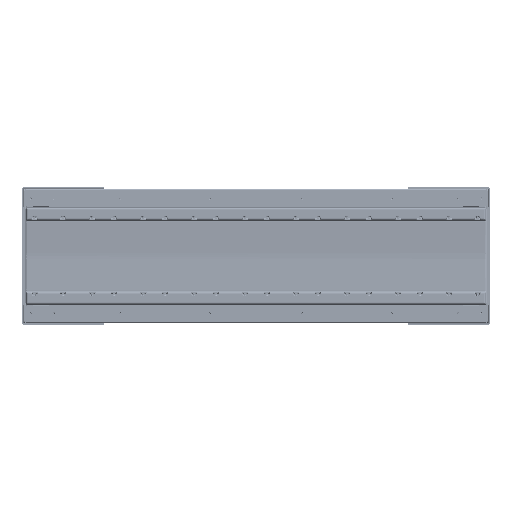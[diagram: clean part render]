
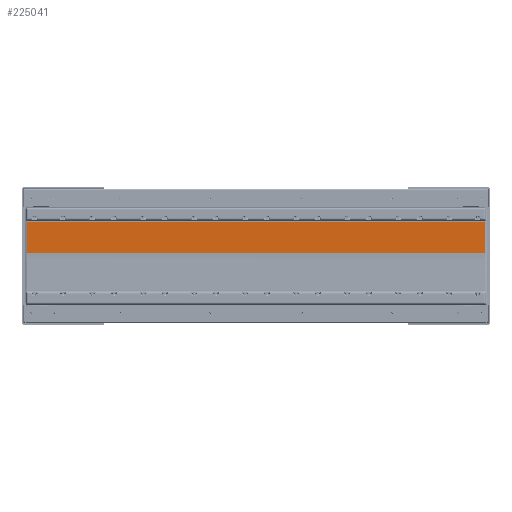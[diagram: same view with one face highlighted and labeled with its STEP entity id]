
A CAD part, front view. The second image highlights one B-rep face of the part: STEP entity #225041.
In plain terms, the highlighted planar face has unit normal (0, -0.999, -0.042).
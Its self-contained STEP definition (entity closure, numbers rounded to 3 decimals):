
#8235 = ORIENTED_EDGE ( 'NONE', *, *, #245679, .T. ) ;
#14882 = DIRECTION ( 'NONE',  ( -0.001, -0.042, 0.999 ) ) ;
#22287 = LINE ( 'NONE', #355258, #259418 ) ;
#30843 = CARTESIAN_POINT ( 'NONE',  ( 645.515, 1.82, -87.761 ) ) ;
#52838 = VECTOR ( 'NONE', #168229, 1000. ) ;
#57309 = PLANE ( 'NONE',  #290160 ) ;
#57465 = LINE ( 'NONE', #138719, #52838 ) ;
#80488 = VERTEX_POINT ( 'NONE', #83565 ) ;
#80510 = VECTOR ( 'NONE', #197923, 1000. ) ;
#81945 = CARTESIAN_POINT ( 'NONE',  ( 645.515, 1.82, -87.761 ) ) ;
#83565 = CARTESIAN_POINT ( 'NONE',  ( 0.951, 1.82, -87.761 ) ) ;
#94633 = VERTEX_POINT ( 'NONE', #114506 ) ;
#104254 = CARTESIAN_POINT ( 'NONE',  ( 644.049, 1.82, -87.761 ) ) ;
#114506 = CARTESIAN_POINT ( 'NONE',  ( 644.017, 0., -44.857 ) ) ;
#117748 = ORIENTED_EDGE ( 'NONE', *, *, #168079, .T. ) ;
#138719 = CARTESIAN_POINT ( 'NONE',  ( 0.951, 1.82, -87.762 ) ) ;
#141377 = FACE_OUTER_BOUND ( 'NONE', #269044, .T. ) ;
#154031 = VERTEX_POINT ( 'NONE', #104254 ) ;
#168079 = EDGE_CURVE ( 'NONE', #154031, #94633, #286355, .T. ) ;
#168229 = DIRECTION ( 'NONE',  ( -0.001, 0.042, -0.999 ) ) ;
#188753 = ORIENTED_EDGE ( 'NONE', *, *, #356169, .F. ) ;
#197923 = DIRECTION ( 'NONE',  ( -1., 0., 0. ) ) ;
#212624 = CARTESIAN_POINT ( 'NONE',  ( 644.017, 0., -44.858 ) ) ;
#225041 = ADVANCED_FACE ( 'NONE', ( #141377 ), #57309, .T. ) ;
#229807 = LINE ( 'NONE', #30843, #80510 ) ;
#245679 = EDGE_CURVE ( 'NONE', #94633, #253465, #22287, .T. ) ;
#245747 = DIRECTION ( 'NONE',  ( -1., 0., 0. ) ) ;
#253465 = VERTEX_POINT ( 'NONE', #360125 ) ;
#259418 = VECTOR ( 'NONE', #245747, 1000. ) ;
#269044 = EDGE_LOOP ( 'NONE', ( #8235, #325676, #188753, #117748 ) ) ;
#276570 = EDGE_CURVE ( 'NONE', #253465, #80488, #57465, .T. ) ;
#286355 = LINE ( 'NONE', #212624, #347823 ) ;
#290160 = AXIS2_PLACEMENT_3D ( 'NONE', #81945, #311272, #363109 ) ;
#311272 = DIRECTION ( 'NONE',  ( 0., -0.999, -0.042 ) ) ;
#325676 = ORIENTED_EDGE ( 'NONE', *, *, #276570, .T. ) ;
#347823 = VECTOR ( 'NONE', #14882, 1000. ) ;
#355258 = CARTESIAN_POINT ( 'NONE',  ( 0., 0., -44.857 ) ) ;
#356169 = EDGE_CURVE ( 'NONE', #154031, #80488, #229807, .T. ) ;
#360125 = CARTESIAN_POINT ( 'NONE',  ( 0.983, 0., -44.857 ) ) ;
#363109 = DIRECTION ( 'NONE',  ( 0., 0.042, -0.999 ) ) ;
